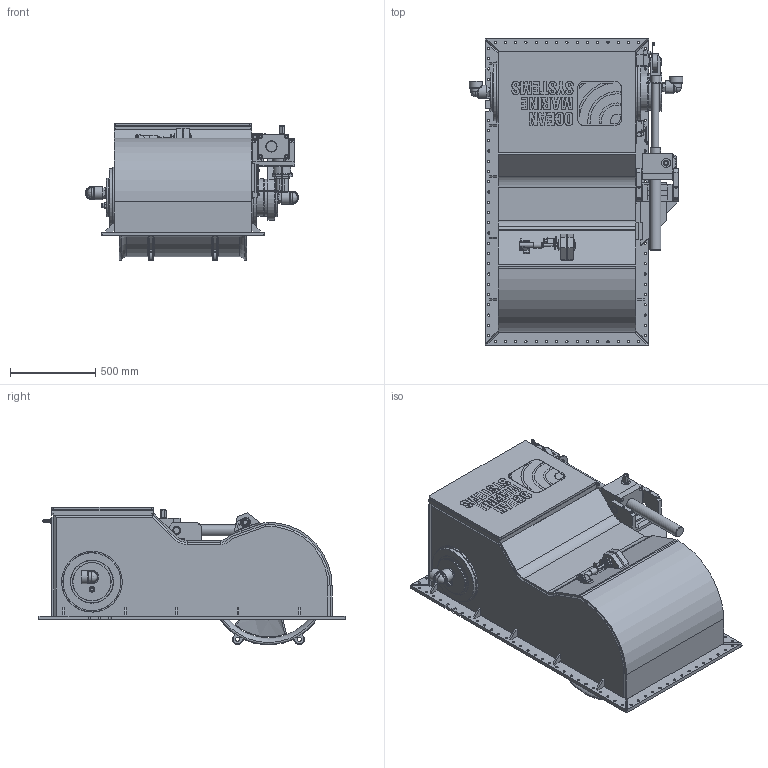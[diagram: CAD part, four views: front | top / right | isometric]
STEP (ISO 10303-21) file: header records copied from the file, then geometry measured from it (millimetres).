
FILE_DESCRIPTION(/* description */ (''),/* implementation_level */ '2;1');
FILE_NAME(/* name */ 'Q:\THRUSTERS\THRUSTER SALES & SUPPORT DOCS\THRUSTER Sales\H-S\H-0600-S\H-0600-S-RETRACTED.stp',/* time_stamp */ '2021-01-26T14:39:14+00:00',/* author */ ('Barney.Webborn'),/* organization */ (''),/* preprocessor_version */ 'ST-DEVELOPER v17.2',/* originating_system */ 'Autodesk Inventor 2019',/* authorisation */ '');
FILE_SCHEMA (('AUTOMOTIVE_DESIGN { 1 0 10303 214 3 1 1 }'));
Length unit declared in the file: millimetre
Products named in the file (1): H-0600-S_Shrinkwrap_1
Bounding box: 1248 x 1791 x 803.69 mm (x, y, z)
Volume: 156587512.7 mm3; surface area: 20190135.8 mm2
Topology: 8 solids, 8 shells, 2592 faces, 6901 edges, 4468 vertices
Faces by surface type: plane 1399, cylinder 681, cone 230, bspline 151, torus 105, sphere 26
Full cylindrical faces by diameter (mm): 3 x6, 5 x2, 7.2 x2, 8 x2, 8.5 x4, 10 x2, 12 x1, 12.4 x24, 12.5 x24, 13 x102, 13.5 x4, 15 x3, 15.6 x1, 16 x5, 16.5 x4, 17 x2, 17.5 x2, 18.15 x1, 18.25 x2, 18.376 x2, 19 x22, 19.512 x4, 20 x4, 24 x4, 24.441 x2, 24.5 x5, 25 x2, 26.21 x1, 26.25 x1, 26.441 x1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
Entity records: 89388 total; most frequent: CARTESIAN_POINT 21386, ORIENTED_EDGE 13662, DIRECTION 13362, EDGE_CURVE 6831, AXIS2_PLACEMENT_3D 4712, VERTEX_POINT 4468, LINE 3938, VECTOR 3938
